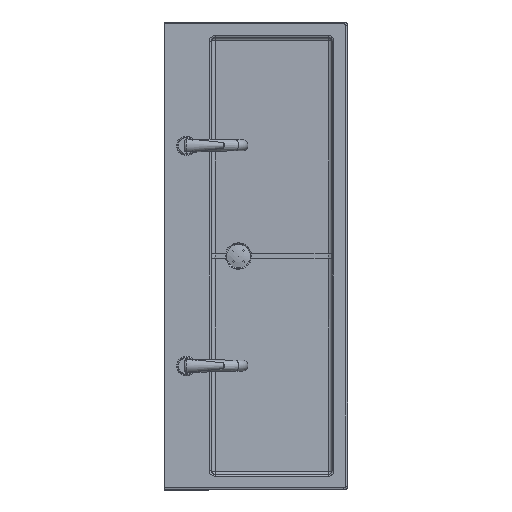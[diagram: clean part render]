
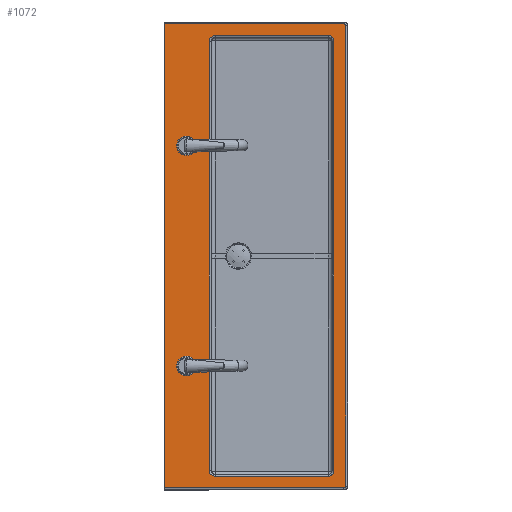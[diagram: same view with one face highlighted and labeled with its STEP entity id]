
A CAD part, top view. The second image highlights one B-rep face of the part: STEP entity #1072.
In plain terms, the highlighted planar face has unit normal (0, 0, 1).
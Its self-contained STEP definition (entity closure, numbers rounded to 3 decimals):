
#919=CARTESIAN_POINT('',(771.157,399.587,130.0));
#920=VERTEX_POINT('',#919);
#921=CARTESIAN_POINT('',(750.657,399.587,130.0));
#922=DIRECTION('',(0.0,0.0,1.0));
#923=DIRECTION('',(-1.0,0.0,0.0));
#924=AXIS2_PLACEMENT_3D('',#921,#922,#923);
#925=CIRCLE('',#924,20.5);
#926=EDGE_CURVE('',#920,#920,#925,.T.);
#931=CARTESIAN_POINT('',(468.157,221.179,130.0));
#932=DIRECTION('',(0.0,0.0,1.0));
#933=DIRECTION('',(1.0,0.0,0.0));
#934=AXIS2_PLACEMENT_3D('',#931,#932,#933);
#935=PLANE('',#934);
#936=CARTESIAN_POINT('',(1063.157,-3.821,130.0));
#937=VERTEX_POINT('',#936);
#938=CARTESIAN_POINT('',(1058.157,-8.821,130.0));
#939=VERTEX_POINT('',#938);
#940=CARTESIAN_POINT('',(1058.157,-3.821,130.0));
#941=DIRECTION('',(0.0,0.0,-1.));
#942=DIRECTION('',(0.707,-0.707,0.0));
#943=AXIS2_PLACEMENT_3D('',#940,#941,#942);
#944=CIRCLE('',#943,5.);
#945=EDGE_CURVE('',#937,#939,#944,.T.);
#946=ORIENTED_EDGE('',*,*,#945,.F.);
#947=CARTESIAN_POINT('',(1063.157,456.179,130.0));
#948=VERTEX_POINT('',#947);
#949=CARTESIAN_POINT('',(1063.157,456.179,130.0));
#950=DIRECTION('',(0.0,-1.0,0.0));
#951=VECTOR('',#950,460.);
#952=LINE('',#949,#951);
#953=EDGE_CURVE('',#948,#937,#952,.T.);
#954=ORIENTED_EDGE('',*,*,#953,.F.);
#955=CARTESIAN_POINT('',(-126.843,456.179,130.0));
#956=VERTEX_POINT('',#955);
#957=CARTESIAN_POINT('',(-126.843,456.179,130.0));
#958=DIRECTION('',(1.0,0.0,0.0));
#959=VECTOR('',#958,1190.0);
#960=LINE('',#957,#959);
#961=EDGE_CURVE('',#956,#948,#960,.T.);
#962=ORIENTED_EDGE('',*,*,#961,.F.);
#963=CARTESIAN_POINT('',(-126.843,-3.821,130.0));
#964=VERTEX_POINT('',#963);
#965=CARTESIAN_POINT('',(-126.843,-3.821,130.0));
#966=DIRECTION('',(0.0,1.0,0.0));
#967=VECTOR('',#966,460.);
#968=LINE('',#965,#967);
#969=EDGE_CURVE('',#964,#956,#968,.T.);
#970=ORIENTED_EDGE('',*,*,#969,.F.);
#971=CARTESIAN_POINT('',(-121.843,-8.821,130.0));
#972=VERTEX_POINT('',#971);
#973=CARTESIAN_POINT('',(-121.843,-3.821,130.0));
#974=DIRECTION('',(0.0,0.0,-1.));
#975=DIRECTION('',(-0.707,-0.707,0.0));
#976=AXIS2_PLACEMENT_3D('',#973,#974,#975);
#977=CIRCLE('',#976,5.0);
#978=EDGE_CURVE('',#972,#964,#977,.T.);
#979=ORIENTED_EDGE('',*,*,#978,.F.);
#980=CARTESIAN_POINT('',(1058.157,-8.821,130.0));
#981=DIRECTION('',(-1.0,0.0,0.0));
#982=VECTOR('',#981,1180.0);
#983=LINE('',#980,#982);
#984=EDGE_CURVE('',#939,#972,#983,.T.);
#985=ORIENTED_EDGE('',*,*,#984,.F.);
#986=EDGE_LOOP('',(#946,#954,#962,#970,#979,#985));
#987=FACE_OUTER_BOUND('',#986,.T.);
#988=CARTESIAN_POINT('',(206.157,399.587,130.0));
#989=VERTEX_POINT('',#988);
#990=CARTESIAN_POINT('',(185.657,399.587,130.0));
#991=DIRECTION('',(0.0,0.0,1.0));
#992=DIRECTION('',(-1.0,0.0,0.0));
#993=AXIS2_PLACEMENT_3D('',#990,#991,#992);
#994=CIRCLE('',#993,20.5);
#995=EDGE_CURVE('',#989,#989,#994,.T.);
#996=ORIENTED_EDGE('',*,*,#995,.F.);
#997=EDGE_LOOP('',(#996));
#998=FACE_BOUND('',#997,.T.);
#999=CARTESIAN_POINT('',(-96.843,326.179,130.0));
#1000=VERTEX_POINT('',#999);
#1001=CARTESIAN_POINT('',(-96.843,36.179,130.0));
#1002=VERTEX_POINT('',#1001);
#1003=CARTESIAN_POINT('',(-96.843,326.179,130.0));
#1004=DIRECTION('',(0.0,-1.0,0.0));
#1005=VECTOR('',#1004,290.);
#1006=LINE('',#1003,#1005);
#1007=EDGE_CURVE('',#1000,#1002,#1006,.T.);
#1008=ORIENTED_EDGE('',*,*,#1007,.F.);
#1009=CARTESIAN_POINT('',(-81.843,341.179,130.0));
#1010=VERTEX_POINT('',#1009);
#1011=CARTESIAN_POINT('',(-81.843,326.179,130.0));
#1012=DIRECTION('',(0.0,0.0,1.0));
#1013=DIRECTION('',(-0.707,0.707,0.0));
#1014=AXIS2_PLACEMENT_3D('',#1011,#1012,#1013);
#1015=CIRCLE('',#1014,15.);
#1016=EDGE_CURVE('',#1010,#1000,#1015,.T.);
#1017=ORIENTED_EDGE('',*,*,#1016,.F.);
#1018=CARTESIAN_POINT('',(1018.157,341.179,130.0));
#1019=VERTEX_POINT('',#1018);
#1020=CARTESIAN_POINT('',(1018.157,341.179,130.0));
#1021=DIRECTION('',(-1.0,0.0,0.0));
#1022=VECTOR('',#1021,1100.);
#1023=LINE('',#1020,#1022);
#1024=EDGE_CURVE('',#1019,#1010,#1023,.T.);
#1025=ORIENTED_EDGE('',*,*,#1024,.F.);
#1026=CARTESIAN_POINT('',(1033.157,326.179,130.0));
#1027=VERTEX_POINT('',#1026);
#1028=CARTESIAN_POINT('',(1018.157,326.179,130.0));
#1029=DIRECTION('',(0.0,0.0,1.));
#1030=DIRECTION('',(0.707,0.707,0.0));
#1031=AXIS2_PLACEMENT_3D('',#1028,#1029,#1030);
#1032=CIRCLE('',#1031,15.);
#1033=EDGE_CURVE('',#1027,#1019,#1032,.T.);
#1034=ORIENTED_EDGE('',*,*,#1033,.F.);
#1035=CARTESIAN_POINT('',(1033.157,36.179,130.0));
#1036=VERTEX_POINT('',#1035);
#1037=CARTESIAN_POINT('',(1033.157,36.179,130.0));
#1038=DIRECTION('',(0.0,1.0,0.0));
#1039=VECTOR('',#1038,290.);
#1040=LINE('',#1037,#1039);
#1041=EDGE_CURVE('',#1036,#1027,#1040,.T.);
#1042=ORIENTED_EDGE('',*,*,#1041,.F.);
#1043=CARTESIAN_POINT('',(1018.157,21.179,130.0));
#1044=VERTEX_POINT('',#1043);
#1045=CARTESIAN_POINT('',(1018.157,36.179,130.0));
#1046=DIRECTION('',(0.0,0.0,1.0));
#1047=DIRECTION('',(0.707,-0.707,0.0));
#1048=AXIS2_PLACEMENT_3D('',#1045,#1046,#1047);
#1049=CIRCLE('',#1048,15.);
#1050=EDGE_CURVE('',#1044,#1036,#1049,.T.);
#1051=ORIENTED_EDGE('',*,*,#1050,.F.);
#1052=CARTESIAN_POINT('',(-81.843,21.179,130.0));
#1053=VERTEX_POINT('',#1052);
#1054=CARTESIAN_POINT('',(-81.843,21.179,130.0));
#1055=DIRECTION('',(1.0,0.0,0.0));
#1056=VECTOR('',#1055,1100.);
#1057=LINE('',#1054,#1056);
#1058=EDGE_CURVE('',#1053,#1044,#1057,.T.);
#1059=ORIENTED_EDGE('',*,*,#1058,.F.);
#1060=CARTESIAN_POINT('',(-81.843,36.179,130.0));
#1061=DIRECTION('',(0.0,0.0,1.));
#1062=DIRECTION('',(-0.707,-0.707,0.0));
#1063=AXIS2_PLACEMENT_3D('',#1060,#1061,#1062);
#1064=CIRCLE('',#1063,15.);
#1065=EDGE_CURVE('',#1002,#1053,#1064,.T.);
#1066=ORIENTED_EDGE('',*,*,#1065,.F.);
#1067=EDGE_LOOP('',(#1008,#1017,#1025,#1034,#1042,#1051,#1059,#1066));
#1068=FACE_BOUND('',#1067,.T.);
#1069=ORIENTED_EDGE('',*,*,#926,.F.);
#1070=EDGE_LOOP('',(#1069));
#1071=FACE_BOUND('',#1070,.T.);
#1072=ADVANCED_FACE('',(#987,#998,#1068,#1071),#935,.T.);
